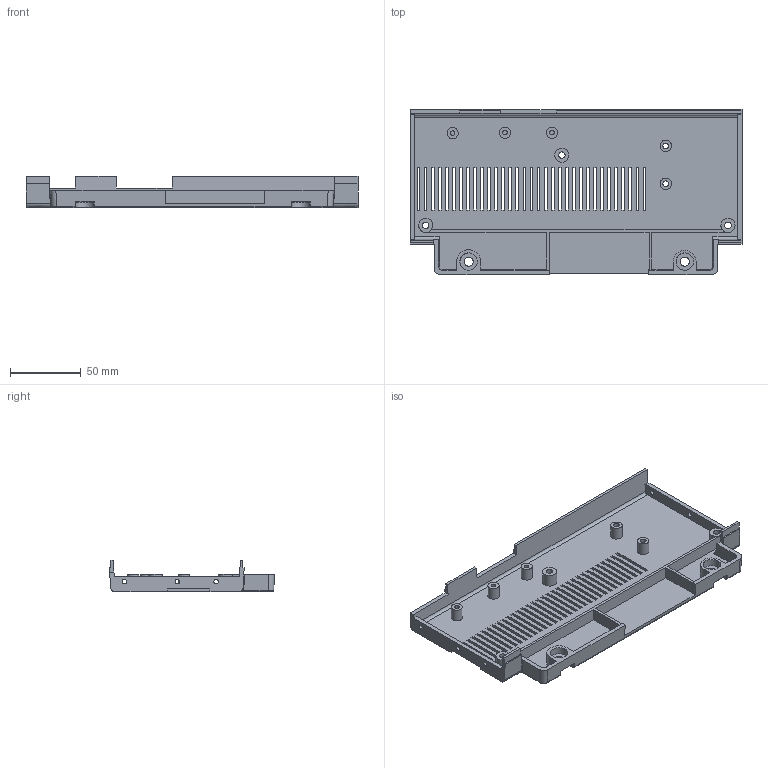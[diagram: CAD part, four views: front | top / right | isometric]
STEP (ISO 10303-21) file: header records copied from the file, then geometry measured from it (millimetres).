
FILE_DESCRIPTION(('FreeCAD Model'),'2;1');
FILE_NAME('Open CASCADE Shape Model','2023-09-06T18:19:07',(''),(''), 'Open CASCADE STEP processor 7.6','FreeCAD','Unknown');
FILE_SCHEMA(('AUTOMOTIVE_DESIGN { 1 0 10303 214 1 1 1 1 }'));
Length unit declared in the file: millimetre
Products named in the file (1): Lower_Middle_Sol
Bounding box: 235 x 116.83 x 22 mm (x, y, z)
Volume: 102678.9 mm3; surface area: 80520.8 mm2
Topology: 1 solids, 1 shells, 310 faces, 862 edges, 560 vertices
Faces by surface type: plane 214, cylinder 48, bspline 42, torus 6
Full cylindrical faces by diameter (mm): 3.2 x9, 4 x2, 4.6 x3, 6.4 x2, 8 x10, 10 x3, 12.4 x2
Entity records: 33006 total; most frequent: CARTESIAN_POINT 16390, DIRECTION 2874, LINE 2040, VECTOR 2040, ORIENTED_EDGE 1704, PCURVE 1704, DEFINITIONAL_REPRESENTATION 1704, EDGE_CURVE 852
